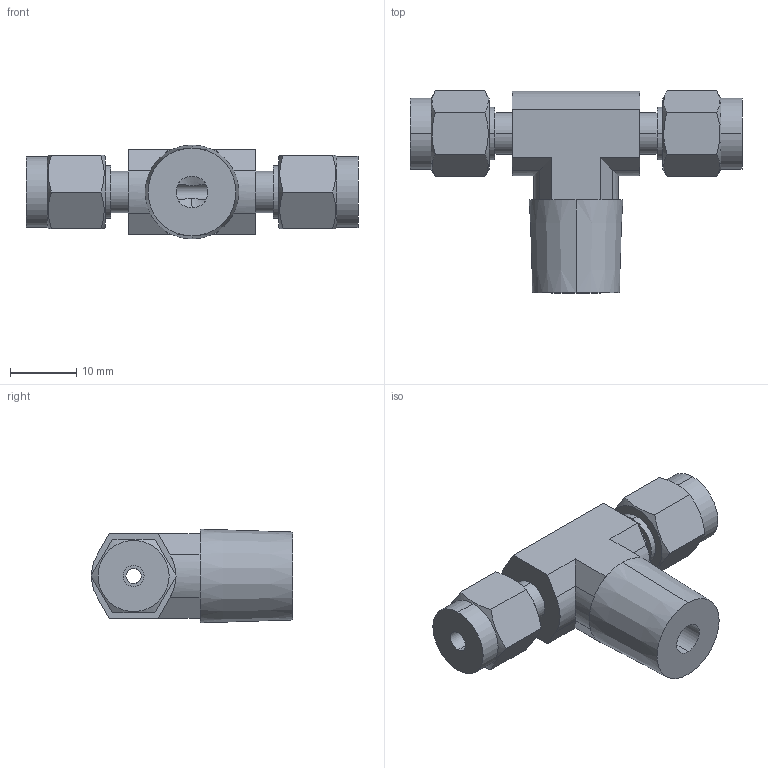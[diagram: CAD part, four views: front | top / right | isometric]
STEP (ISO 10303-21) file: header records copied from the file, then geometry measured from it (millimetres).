
FILE_DESCRIPTION (( 'STEP AP203' ), '1' );
FILE_NAME ('DTN 02-04 SS.STEP', '2009-09-08T10:09:13', ( 'Your User Name' ), ( 'Your Company Name' ), 'SwSTEP 2.0', 'SolidWorks 2008', '' );
FILE_SCHEMA (( 'CONFIG_CONTROL_DESIGN' ));
Length unit declared in the file: millimetre
Products named in the file (1): DTN 02-04 SS
Bounding box: 50 x 30.41 x 14.12 mm (x, y, z)
Volume: 7208.3 mm3; surface area: 3984.2 mm2
Topology: 1 solids, 1 shells, 82 faces, 198 edges, 125 vertices
Faces by surface type: plane 43, cylinder 26, cone 13
Entity records: 2682 total; most frequent: CARTESIAN_POINT 705, ORIENTED_EDGE 396, DIRECTION 389, EDGE_CURVE 198, AXIS2_PLACEMENT_3D 147, VERTEX_POINT 125, VECTOR 95, LINE 95
